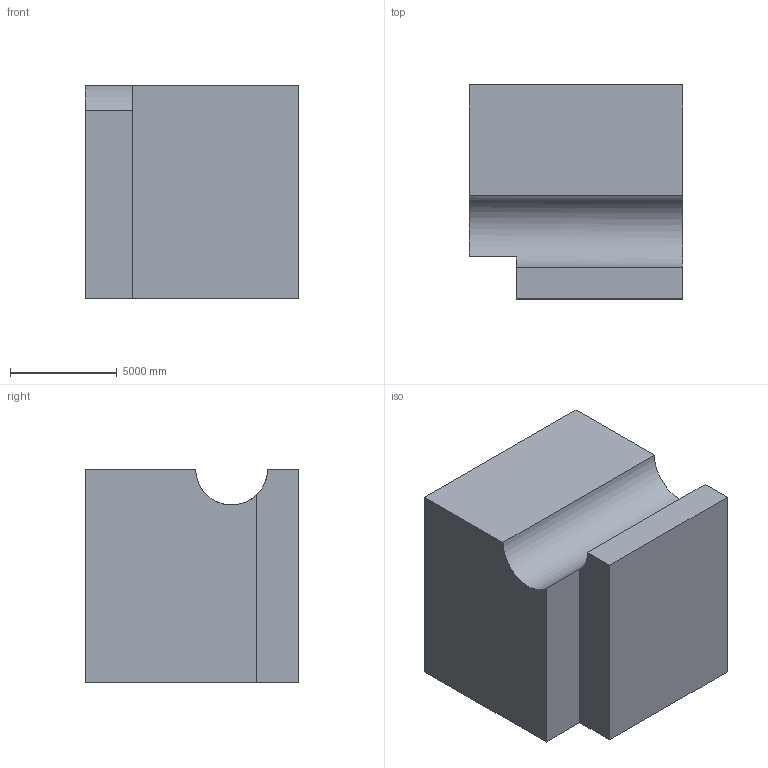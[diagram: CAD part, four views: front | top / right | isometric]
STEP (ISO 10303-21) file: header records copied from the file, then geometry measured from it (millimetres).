
FILE_DESCRIPTION (( 'STEP AP203' ), '1' );
FILE_NAME ('159.STEP', '2022-07-28T13:46:15', ( 'user' ), ( '' ), 'SwSTEP 2.0', 'SolidWorks 2021', '' );
FILE_SCHEMA (( 'CONFIG_CONTROL_DESIGN' ));
Length unit declared in the file: centimetre
Products named in the file (1): 159
Bounding box: 10000 x 10000 x 10000 mm (x, y, z)
Volume: 912794527304.2 mm3; surface area: 597049672.9 mm2
Topology: 1 solids, 1 shells, 10 faces, 24 edges, 16 vertices
Faces by surface type: plane 9, cylinder 1
Entity records: 368 total; most frequent: CARTESIAN_POINT 51, DIRECTION 49, ORIENTED_EDGE 48, EDGE_CURVE 24, VECTOR 21, LINE 21, VERTEX_POINT 16, AXIS2_PLACEMENT_3D 14
